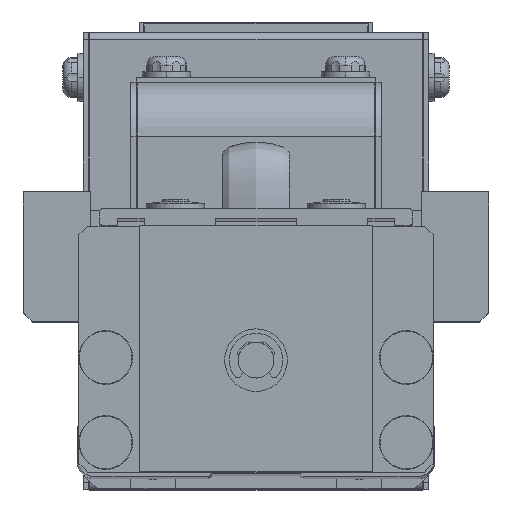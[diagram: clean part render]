
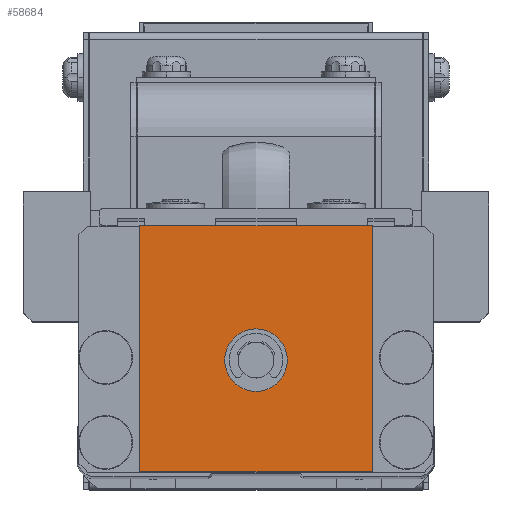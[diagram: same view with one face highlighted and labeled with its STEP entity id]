
A CAD part, top view. The second image highlights one B-rep face of the part: STEP entity #58684.
In plain terms, the highlighted planar face has unit normal (0, 0, 1) as drawn and (1, 0, 0) by its records, which use the part's own axes.
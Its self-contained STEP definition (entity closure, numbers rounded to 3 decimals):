
#5280 = LINE ( 'NONE', #51845, #32970 ) ;
#5357 = CARTESIAN_POINT ( 'NONE',  ( 160., 15., -13. ) ) ;
#8149 = ORIENTED_EDGE ( 'NONE', *, *, #34010, .T. ) ;
#8483 = DIRECTION ( 'NONE',  ( 1., 0., 0. ) ) ;
#9068 = EDGE_LOOP ( 'NONE', ( #31426, #58384, #8149, #31683 ) ) ;
#10445 = AXIS2_PLACEMENT_3D ( 'NONE', #63822, #25902, #70184 ) ;
#10968 = VERTEX_POINT ( 'NONE', #28945 ) ;
#10994 = VECTOR ( 'NONE', #14082, 1000. ) ;
#11706 = DIRECTION ( 'NONE',  ( -1., 0., 0. ) ) ;
#13897 = DIRECTION ( 'NONE',  ( 0., 1., 0. ) ) ;
#14082 = DIRECTION ( 'NONE',  ( 0., -1., 0. ) ) ;
#19093 = CARTESIAN_POINT ( 'NONE',  ( 160., -12.5, -13. ) ) ;
#19397 = VECTOR ( 'NONE', #81087, 1000. ) ;
#19487 = LINE ( 'NONE', #61906, #68060 ) ;
#20929 = PLANE ( 'NONE',  #76712 ) ;
#23987 = DIRECTION ( 'NONE',  ( 0., 0., 1. ) ) ;
#24739 = EDGE_CURVE ( 'NONE', #53492, #33415, #36602, .T. ) ;
#25371 = CARTESIAN_POINT ( 'NONE',  ( 160., 0., 3.5 ) ) ;
#25620 = CARTESIAN_POINT ( 'NONE',  ( 160., 0., -3.5 ) ) ;
#25902 = DIRECTION ( 'NONE',  ( -1., 0., 0. ) ) ;
#28945 = CARTESIAN_POINT ( 'NONE',  ( 160., -12.5, 13. ) ) ;
#29466 = EDGE_CURVE ( 'NONE', #10968, #77712, #69952, .T. ) ;
#31426 = ORIENTED_EDGE ( 'NONE', *, *, #34601, .T. ) ;
#31683 = ORIENTED_EDGE ( 'NONE', *, *, #48782, .T. ) ;
#32798 = AXIS2_PLACEMENT_3D ( 'NONE', #49673, #11706, #56053 ) ;
#32970 = VECTOR ( 'NONE', #13897, 1000. ) ;
#33415 = VERTEX_POINT ( 'NONE', #25620 ) ;
#33861 = EDGE_CURVE ( 'NONE', #33415, #53492, #66757, .T. ) ;
#34010 = EDGE_CURVE ( 'NONE', #77712, #72910, #5280, .T. ) ;
#34601 = EDGE_CURVE ( 'NONE', #58282, #10968, #44678, .T. ) ;
#34868 = ORIENTED_EDGE ( 'NONE', *, *, #33861, .T. ) ;
#35388 = CARTESIAN_POINT ( 'NONE',  ( 160., 15., 13. ) ) ;
#36602 = CIRCLE ( 'NONE', #10445, 3.5 ) ;
#38907 = ORIENTED_EDGE ( 'NONE', *, *, #24739, .T. ) ;
#42685 = CARTESIAN_POINT ( 'NONE',  ( 160., -12.5, 13. ) ) ;
#44678 = LINE ( 'NONE', #58396, #10994 ) ;
#44937 = FACE_BOUND ( 'NONE', #67162, .T. ) ;
#46399 = CARTESIAN_POINT ( 'NONE',  ( 160., 0., 0. ) ) ;
#48782 = EDGE_CURVE ( 'NONE', #72910, #58282, #19487, .T. ) ;
#49673 = CARTESIAN_POINT ( 'NONE',  ( 160., 0., 0. ) ) ;
#51845 = CARTESIAN_POINT ( 'NONE',  ( 160., -12.5, -13. ) ) ;
#52783 = DIRECTION ( 'NONE',  ( 0., 0., -1. ) ) ;
#53492 = VERTEX_POINT ( 'NONE', #25371 ) ;
#56053 = DIRECTION ( 'NONE',  ( 0., 0., 1. ) ) ;
#58282 = VERTEX_POINT ( 'NONE', #35388 ) ;
#58384 = ORIENTED_EDGE ( 'NONE', *, *, #29466, .T. ) ;
#58396 = CARTESIAN_POINT ( 'NONE',  ( 160., 15., 13. ) ) ;
#58684 = ADVANCED_FACE ( 'NONE', ( #76587, #44937 ), #20929, .T. ) ;
#61906 = CARTESIAN_POINT ( 'NONE',  ( 160., 15., -13. ) ) ;
#63822 = CARTESIAN_POINT ( 'NONE',  ( 160., 0., 0. ) ) ;
#66757 = CIRCLE ( 'NONE', #32798, 3.5 ) ;
#67162 = EDGE_LOOP ( 'NONE', ( #38907, #34868 ) ) ;
#68060 = VECTOR ( 'NONE', #23987, 1000. ) ;
#69952 = LINE ( 'NONE', #42685, #19397 ) ;
#70184 = DIRECTION ( 'NONE',  ( 0., 0., 1. ) ) ;
#72910 = VERTEX_POINT ( 'NONE', #5357 ) ;
#76587 = FACE_OUTER_BOUND ( 'NONE', #9068, .T. ) ;
#76712 = AXIS2_PLACEMENT_3D ( 'NONE', #46399, #8483, #52783 ) ;
#77712 = VERTEX_POINT ( 'NONE', #19093 ) ;
#81087 = DIRECTION ( 'NONE',  ( 0., 0., -1. ) ) ;
